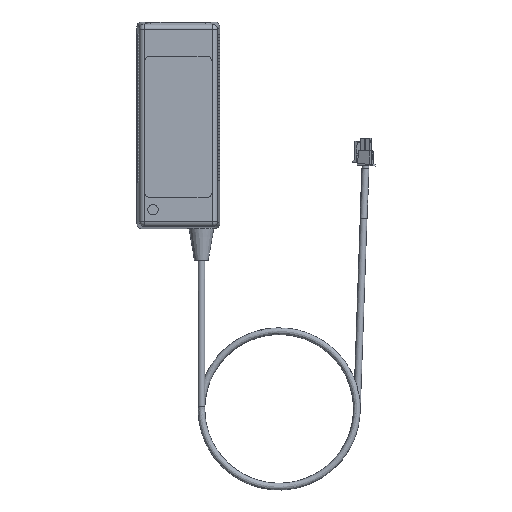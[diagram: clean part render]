
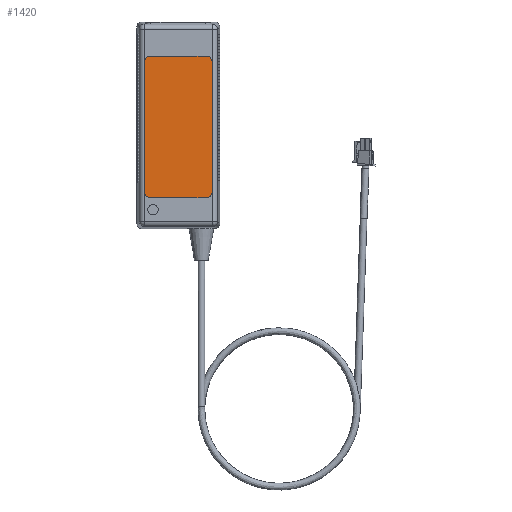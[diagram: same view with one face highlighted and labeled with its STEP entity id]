
A CAD part, front view. The second image highlights one B-rep face of the part: STEP entity #1420.
In plain terms, the highlighted planar face has unit normal (0, -1, 0).
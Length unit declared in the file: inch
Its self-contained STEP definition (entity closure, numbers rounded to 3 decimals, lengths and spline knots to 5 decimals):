
#1420 = ADVANCED_FACE ( 'NONE', ( #30692 ), #29927, .T. ) ;
#14121 = VERTEX_POINT ( 'NONE', #41387 ) ;
#14167 = VERTEX_POINT ( 'NONE', #41422 ) ;
#14764 = VERTEX_POINT ( 'NONE', #41884 ) ;
#14794 = VERTEX_POINT ( 'NONE', #41909 ) ;
#15046 = VERTEX_POINT ( 'NONE', #42155 ) ;
#15047 = VERTEX_POINT ( 'NONE', #42156 ) ;
#15068 = VERTEX_POINT ( 'NONE', #42177 ) ;
#15073 = VERTEX_POINT ( 'NONE', #42182 ) ;
#16690 = EDGE_CURVE ( 'NONE', #15073, #14794, #21699, .T. ) ;
#16691 = EDGE_CURVE ( 'NONE', #14794, #14764, #21702, .T. ) ;
#16692 = EDGE_CURVE ( 'NONE', #14764, #15068, #21706, .T. ) ;
#16693 = EDGE_CURVE ( 'NONE', #15068, #15047, #21710, .T. ) ;
#16694 = EDGE_CURVE ( 'NONE', #15047, #14167, #21712, .T. ) ;
#16695 = EDGE_CURVE ( 'NONE', #14167, #14121, #21714, .T. ) ;
#16696 = EDGE_CURVE ( 'NONE', #14121, #15046, #21715, .T. ) ;
#16697 = EDGE_CURVE ( 'NONE', #15046, #15073, #21717, .T. ) ;
#20142 = DIRECTION ( 'NONE',  ( 0., 0., 1. ) ) ;
#20146 = CARTESIAN_POINT ( 'NONE',  ( -0.56, 0.005, 1.39585 ) ) ;
#20149 = DIRECTION ( 'NONE',  ( -1., 0., 0. ) ) ;
#20151 = CARTESIAN_POINT ( 'NONE',  ( 0.685, 0.005, 1.27085 ) ) ;
#20153 = CARTESIAN_POINT ( 'NONE',  ( 0.56, 0.005, -1.33335 ) ) ;
#20154 = DIRECTION ( 'NONE',  ( 0., -1., 0. ) ) ;
#20156 = DIRECTION ( 'NONE',  ( 0., 0., -1. ) ) ;
#20160 = CARTESIAN_POINT ( 'NONE',  ( -0.685, 0.005, 1.27085 ) ) ;
#20163 = DIRECTION ( 'NONE',  ( 0., 0., -1. ) ) ;
#20164 = CARTESIAN_POINT ( 'NONE',  ( 0.56, 0.005, 1.27085 ) ) ;
#20166 = DIRECTION ( 'NONE',  ( 0., -1., 0. ) ) ;
#20168 = DIRECTION ( 'NONE',  ( 0., 0., 1. ) ) ;
#20172 = CARTESIAN_POINT ( 'NONE',  ( -0.56, 0.005, -1.45835 ) ) ;
#20174 = DIRECTION ( 'NONE',  ( 1., 0., 0. ) ) ;
#20176 = CARTESIAN_POINT ( 'NONE',  ( -0.56, 0.005, 1.27085 ) ) ;
#20178 = DIRECTION ( 'NONE',  ( 0., -1., 0. ) ) ;
#20180 = DIRECTION ( 'NONE',  ( 0., 0., -1. ) ) ;
#20187 = CARTESIAN_POINT ( 'NONE',  ( -0.56, 0.005, -1.33335 ) ) ;
#20189 = DIRECTION ( 'NONE',  ( 0., -1., 0. ) ) ;
#20191 = DIRECTION ( 'NONE',  ( 0., 0., -1. ) ) ;
#21699 = CIRCLE ( 'NONE', #43957, 0.125 ) ;
#21702 = LINE ( 'NONE', #20151, #21708 ) ;
#21706 = CIRCLE ( 'NONE', #43958, 0.125 ) ;
#21708 = VECTOR ( 'NONE', #20142, 39.37008 ) ;
#21710 = LINE ( 'NONE', #20146, #21713 ) ;
#21712 = CIRCLE ( 'NONE', #43959, 0.125 ) ;
#21713 = VECTOR ( 'NONE', #20149, 39.37008 ) ;
#21714 = LINE ( 'NONE', #20160, #21716 ) ;
#21715 = CIRCLE ( 'NONE', #43960, 0.125 ) ;
#21716 = VECTOR ( 'NONE', #20163, 39.37008 ) ;
#21717 = LINE ( 'NONE', #20172, #21720 ) ;
#21720 = VECTOR ( 'NONE', #20174, 39.37008 ) ;
#24479 = EDGE_LOOP ( 'NONE', ( #26329, #26332, #26334, #26336, #26337, #26338, #26340, #26341 ) ) ;
#26329 = ORIENTED_EDGE ( 'NONE', *, *, #16690, .T. ) ;
#26332 = ORIENTED_EDGE ( 'NONE', *, *, #16691, .T. ) ;
#26334 = ORIENTED_EDGE ( 'NONE', *, *, #16692, .T. ) ;
#26336 = ORIENTED_EDGE ( 'NONE', *, *, #16693, .T. ) ;
#26337 = ORIENTED_EDGE ( 'NONE', *, *, #16694, .T. ) ;
#26338 = ORIENTED_EDGE ( 'NONE', *, *, #16695, .T. ) ;
#26340 = ORIENTED_EDGE ( 'NONE', *, *, #16696, .T. ) ;
#26341 = ORIENTED_EDGE ( 'NONE', *, *, #16697, .T. ) ;
#29927 = PLANE ( 'NONE',  #40401 ) ;
#29940 = CARTESIAN_POINT ( 'NONE',  ( 0.56, 0.005, -1.33335 ) ) ;
#29941 = DIRECTION ( 'NONE',  ( 0., -1., 0. ) ) ;
#29942 = DIRECTION ( 'NONE',  ( 0., 0., -1. ) ) ;
#30692 = FACE_OUTER_BOUND ( 'NONE', #24479, .T. ) ;
#40401 = AXIS2_PLACEMENT_3D ( 'NONE', #29940, #29941, #29942 ) ;
#41387 = CARTESIAN_POINT ( 'NONE',  ( -0.685, 0.005, -1.33335 ) ) ;
#41422 = CARTESIAN_POINT ( 'NONE',  ( -0.685, 0.005, 1.27085 ) ) ;
#41884 = CARTESIAN_POINT ( 'NONE',  ( 0.685, 0.005, 1.27085 ) ) ;
#41909 = CARTESIAN_POINT ( 'NONE',  ( 0.685, 0.005, -1.33335 ) ) ;
#42155 = CARTESIAN_POINT ( 'NONE',  ( -0.56, 0.005, -1.45835 ) ) ;
#42156 = CARTESIAN_POINT ( 'NONE',  ( -0.56, 0.005, 1.39585 ) ) ;
#42177 = CARTESIAN_POINT ( 'NONE',  ( 0.56, 0.005, 1.39585 ) ) ;
#42182 = CARTESIAN_POINT ( 'NONE',  ( 0.56, 0.005, -1.45835 ) ) ;
#43957 = AXIS2_PLACEMENT_3D ( 'NONE', #20153, #20154, #20156 ) ;
#43958 = AXIS2_PLACEMENT_3D ( 'NONE', #20164, #20166, #20168 ) ;
#43959 = AXIS2_PLACEMENT_3D ( 'NONE', #20176, #20178, #20180 ) ;
#43960 = AXIS2_PLACEMENT_3D ( 'NONE', #20187, #20189, #20191 ) ;
